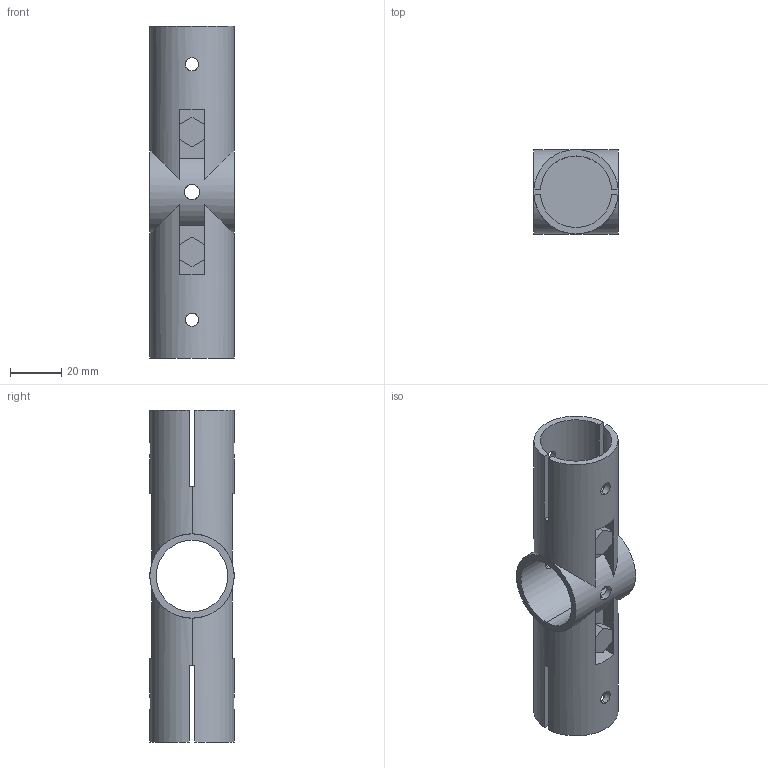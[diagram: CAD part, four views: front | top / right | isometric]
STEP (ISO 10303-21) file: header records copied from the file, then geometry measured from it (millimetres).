
FILE_DESCRIPTION (( 'STEP AP214' ), '1' );
FILE_NAME ('NSJ-4.STEP', '2023-10-11T06:42:27', ( 'catia' ), ( 'HP Inc.' ), 'SwSTEP 2.0', 'SolidWorks 2021', '' );
FILE_SCHEMA (( 'AUTOMOTIVE_DESIGN' ));
Length unit declared in the file: millimetre
Products named in the file (1): NSJ-4
Bounding box: 33 x 33 x 130 mm (x, y, z)
Volume: 53282.7 mm3; surface area: 25068.1 mm2
Topology: 1 solids, 1 shells, 76 faces, 202 edges, 132 vertices
Faces by surface type: plane 48, cylinder 28
Entity records: 3116 total; most frequent: CARTESIAN_POINT 1187, ORIENTED_EDGE 404, DIRECTION 372, EDGE_CURVE 202, VERTEX_POINT 132, AXIS2_PLACEMENT_3D 125, LINE 122, VECTOR 122
